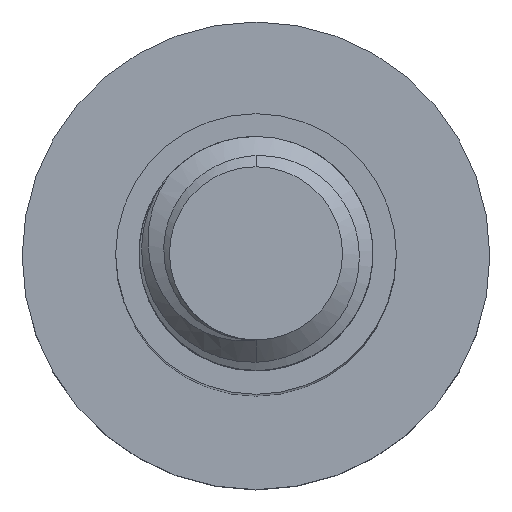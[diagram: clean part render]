
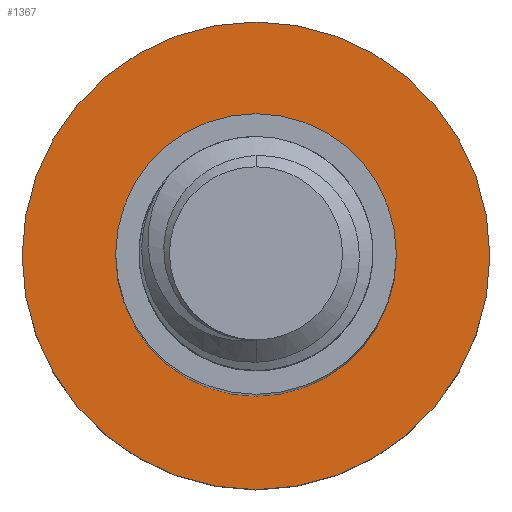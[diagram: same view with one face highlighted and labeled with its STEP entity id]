
A CAD part, top view. The second image highlights one B-rep face of the part: STEP entity #1367.
In plain terms, the highlighted planar face has unit normal (0, 0, 1).
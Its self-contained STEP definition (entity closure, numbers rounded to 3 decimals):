
#3 = EDGE_LOOP ( 'NONE', ( #1708, #957 ) ) ;
#35 = AXIS2_PLACEMENT_3D ( 'NONE', #3054, #1646, #3073 ) ;
#53 = DIRECTION ( 'NONE',  ( -1., 0., 0. ) ) ;
#106 = FACE_BOUND ( 'NONE', #3, .T. ) ;
#198 = DIRECTION ( 'NONE',  ( -1., 0., 0. ) ) ;
#378 = EDGE_CURVE ( 'NONE', #1716, #1434, #1353, .T. ) ;
#477 = VERTEX_POINT ( 'NONE', #3107 ) ;
#560 = CIRCLE ( 'NONE', #2789, 10. ) ;
#636 = DIRECTION ( 'NONE',  ( 0., 0., -1. ) ) ;
#868 = DIRECTION ( 'NONE',  ( -1., 0., 0. ) ) ;
#957 = ORIENTED_EDGE ( 'NONE', *, *, #2339, .T. ) ;
#1045 = CARTESIAN_POINT ( 'NONE',  ( 0., 0., -45. ) ) ;
#1154 = DIRECTION ( 'NONE',  ( 0., 0., -1. ) ) ;
#1198 = PLANE ( 'NONE',  #1746 ) ;
#1217 = FACE_OUTER_BOUND ( 'NONE', #1641, .T. ) ;
#1294 = CARTESIAN_POINT ( 'NONE',  ( 6., 0., -45. ) ) ;
#1353 = CIRCLE ( 'NONE', #35, 10. ) ;
#1367 = ADVANCED_FACE ( 'NONE', ( #106, #1217 ), #1198, .F. ) ;
#1434 = VERTEX_POINT ( 'NONE', #2543 ) ;
#1451 = DIRECTION ( 'NONE',  ( -1., 0., 0. ) ) ;
#1591 = DIRECTION ( 'NONE',  ( 0., 0., -1. ) ) ;
#1641 = EDGE_LOOP ( 'NONE', ( #3094, #2165 ) ) ;
#1646 = DIRECTION ( 'NONE',  ( 0., 0., -1. ) ) ;
#1708 = ORIENTED_EDGE ( 'NONE', *, *, #2562, .T. ) ;
#1716 = VERTEX_POINT ( 'NONE', #2091 ) ;
#1746 = AXIS2_PLACEMENT_3D ( 'NONE', #2294, #2524, #53 ) ;
#1810 = CIRCLE ( 'NONE', #3149, 6. ) ;
#2091 = CARTESIAN_POINT ( 'NONE',  ( 10., 0., -45. ) ) ;
#2165 = ORIENTED_EDGE ( 'NONE', *, *, #3068, .F. ) ;
#2283 = CARTESIAN_POINT ( 'NONE',  ( 0., 0., -45. ) ) ;
#2294 = CARTESIAN_POINT ( 'NONE',  ( 0., 0., -45. ) ) ;
#2339 = EDGE_CURVE ( 'NONE', #2930, #477, #2732, .T. ) ;
#2524 = DIRECTION ( 'NONE',  ( 0., 0., -1. ) ) ;
#2543 = CARTESIAN_POINT ( 'NONE',  ( -10., 0., -45. ) ) ;
#2562 = EDGE_CURVE ( 'NONE', #477, #2930, #1810, .T. ) ;
#2732 = CIRCLE ( 'NONE', #3018, 6. ) ;
#2789 = AXIS2_PLACEMENT_3D ( 'NONE', #1045, #1591, #198 ) ;
#2930 = VERTEX_POINT ( 'NONE', #1294 ) ;
#3018 = AXIS2_PLACEMENT_3D ( 'NONE', #3334, #1154, #868 ) ;
#3054 = CARTESIAN_POINT ( 'NONE',  ( 0., 0., -45. ) ) ;
#3068 = EDGE_CURVE ( 'NONE', #1434, #1716, #560, .T. ) ;
#3073 = DIRECTION ( 'NONE',  ( -1., 0., 0. ) ) ;
#3094 = ORIENTED_EDGE ( 'NONE', *, *, #378, .F. ) ;
#3107 = CARTESIAN_POINT ( 'NONE',  ( -6., 0., -45. ) ) ;
#3149 = AXIS2_PLACEMENT_3D ( 'NONE', #2283, #636, #1451 ) ;
#3334 = CARTESIAN_POINT ( 'NONE',  ( 0., 0., -45. ) ) ;
